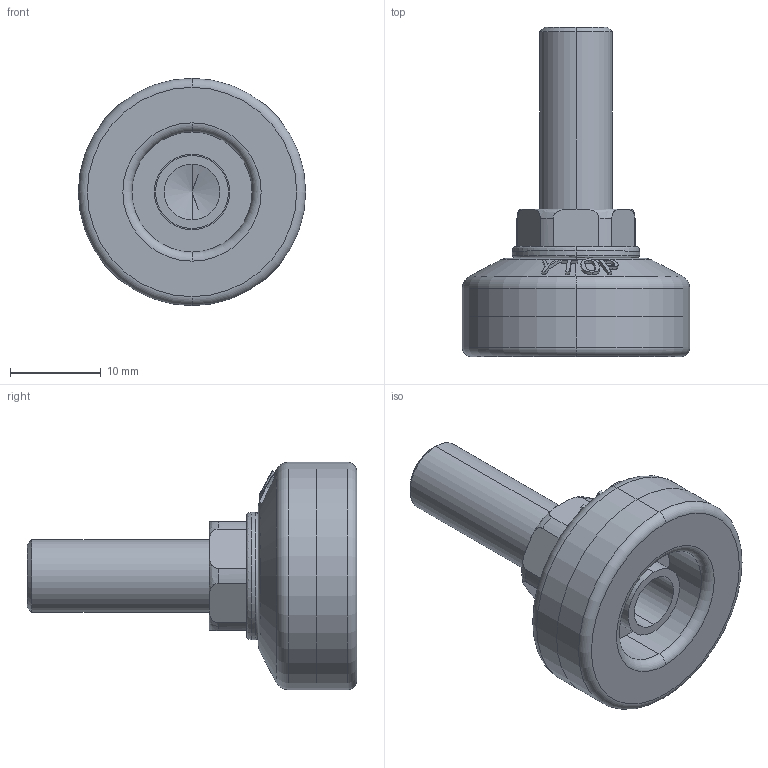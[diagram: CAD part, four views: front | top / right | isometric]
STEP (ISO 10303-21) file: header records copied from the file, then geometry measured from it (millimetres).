
FILE_DESCRIPTION (( 'STEP AP203' ), '1' );
FILE_NAME ('R-25-820-TPU.STEP', '2020-09-11T02:15:59', ( '' ), ( '' ), 'SwSTEP 2.0', 'SolidWorks 2016', '' );
FILE_SCHEMA (( 'CONFIG_CONTROL_DESIGN' ));
Length unit declared in the file: millimetre
Products named in the file (4): 穩諉蹟裝M8炵蹈_M8X20; S倰覃誹褐_25菁菜; S倰覃誹褐_25裔赽; R-25-820-TPU
Assembly tree (3 placements, depth 2):
  R-25-820-TPU
    S倰覃誹褐_25菁菜
    S倰覃誹褐_25裔赽
    穩諉蹟裝M8炵蹈_M8X20
Bounding box: 25 x 36.2 x 25 mm (x, y, z)
Volume: 4999.7 mm3; surface area: 5238.1 mm2
Topology: 3 solids, 3 shells, 145 faces, 347 edges, 219 vertices
Faces by surface type: bspline 48, plane 35, cylinder 32, torus 16, cone 14
Entity records: 8626 total; most frequent: CARTESIAN_POINT 5218, ORIENTED_EDGE 690, DIRECTION 507, EDGE_CURVE 345, VERTEX_POINT 219, AXIS2_PLACEMENT_3D 211, EDGE_LOOP 162, B_SPLINE_CURVE_WITH_KNOTS 148
